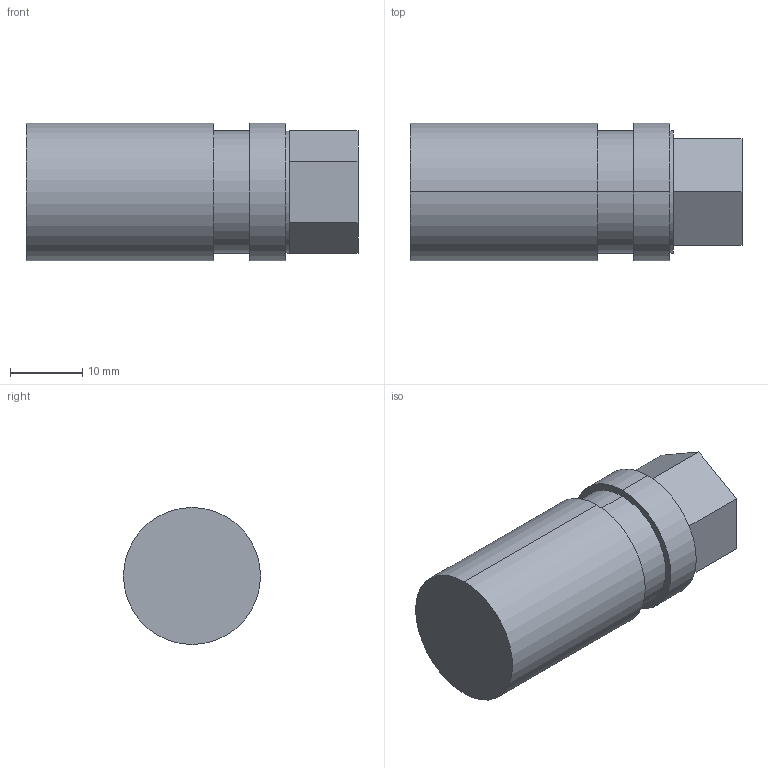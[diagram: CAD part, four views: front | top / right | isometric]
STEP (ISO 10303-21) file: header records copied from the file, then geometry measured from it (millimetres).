
FILE_DESCRIPTION (( 'STEP AP214' ), '1' );
FILE_NAME ('BR601.06 DGB 13.STEP', '2020-12-02T13:12:48', ( '' ), ( '' ), 'SwSTEP 2.0', 'SolidWorks 2018', '' );
FILE_SCHEMA (( 'AUTOMOTIVE_DESIGN' ));
Length unit declared in the file: millimetre
Products named in the file (1): BR601.06 DGB 13
Bounding box: 46 x 19 x 19 mm (x, y, z)
Volume: 10851.4 mm3; surface area: 3649 mm2
Topology: 1 solids, 1 shells, 28 faces, 54 edges, 32 vertices
Faces by surface type: plane 18, cylinder 10
Entity records: 742 total; most frequent: DIRECTION 138, CARTESIAN_POINT 115, ORIENTED_EDGE 108, AXIS2_PLACEMENT_3D 55, EDGE_CURVE 54, EDGE_LOOP 32, VERTEX_POINT 32, FACE_OUTER_BOUND 28
